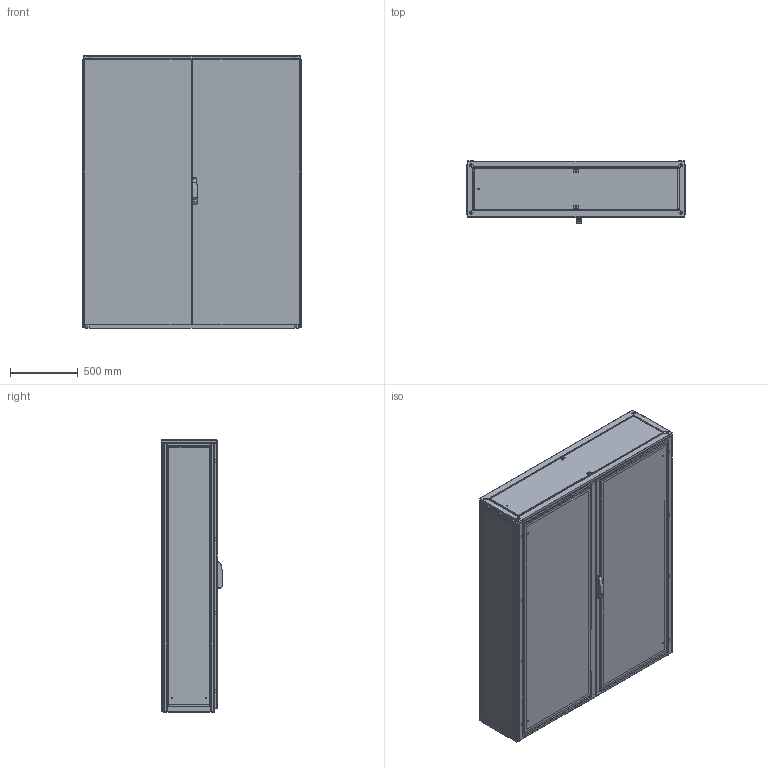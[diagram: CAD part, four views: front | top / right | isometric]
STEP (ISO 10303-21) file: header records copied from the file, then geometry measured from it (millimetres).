
FILE_DESCRIPTION(/* description */ ('STEP AP214'),/* implementation_level */ '2;1');
FILE_NAME(/* name */ 'ENUX162004PR -LOD350',/* time_stamp */ '2025-10-06T10:19:20+02:00',/* author */ ('License CC BY-ND 4.0'),/* organization */ ('CADENAS'),/* preprocessor_version */ 'ST-DEVELOPER v19.3',/* originating_system */ 'PARTsolutions',/* authorisation */ ' ');
FILE_SCHEMA (('AUTOMOTIVE_DESIGN {1 0 10303 214 3 1 1}'));
Length unit declared in the file: millimetre
Products named in the file (11): ENUX162004PR  -LOD350; ENUX162004PR  -LOD3501; ENUX162004PR  -LOD3507; ENUX162004PR  -LOD3502; ENUX162004PR  -LOD35011; ENUX162004PR  -LOD3503; ENUX162004PR  -LOD3508; ENUX162004PR  -LOD3505; ENUX162004PR  -LOD3504; ENUX162004PR  -LOD35010; ENUX162004PR  -LOD3509
Assembly tree (15 placements, depth 2):
  ENUX162004PR  -LOD350
    ENUX162004PR  -LOD3501
    ENUX162004PR  -LOD3507  x2
    ENUX162004PR  -LOD3502
    ENUX162004PR  -LOD35011
    ENUX162004PR  -LOD3503
    ENUX162004PR  -LOD3508
    ENUX162004PR  -LOD3505
    ENUX162004PR  -LOD3504
    ENUX162004PR  -LOD35010  x4
    ENUX162004PR  -LOD3509  x2
Bounding box: 1612 x 457 x 2008.5 mm (x, y, z)
Volume: 32265891.4 mm3; surface area: 26750091.7 mm2
Topology: 15 solids, 22 shells, 1428 faces, 3829 edges, 2500 vertices
Faces by surface type: plane 850, cylinder 528, torus 30, cone 12, sphere 8
Full cylindrical faces by diameter (mm): 6 x15, 9 x13, 12 x4, 14 x2, 17 x2, 28 x2
Entity records: 36566 total; most frequent: CARTESIAN_POINT 6693, DIRECTION 6207, ORIENTED_EDGE 6118, EDGE_CURVE 3059, LINE 2069, VECTOR 2069, AXIS2_PLACEMENT_3D 2069, VERTEX_POINT 2022
